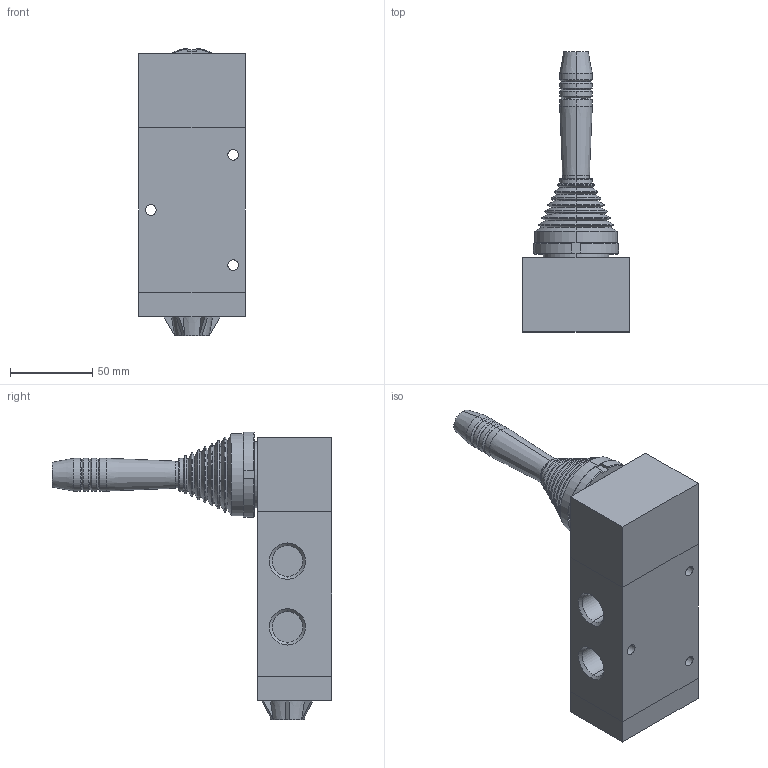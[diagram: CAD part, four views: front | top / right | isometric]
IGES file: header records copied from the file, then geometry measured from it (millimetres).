
Global section: file name: No Iges File Name specified; native system: AutoDesk Inventor R11.0; preprocessor: AutoDesk Inventor Iges Exporter R11.0; author: No Author specified; organization: No Organization specified; date: 20061219.152832; units: millimetre
Bounding box: 65 x 170 x 174.88 mm (x, y, z)
Volume: 536285.6 mm3; surface area: 64406.3 mm2
Topology: 2 solids, 2 shells, 183 faces, 420 edges, 254 vertices
Faces by surface type: cone 60, plane 56, cylinder 24, torus 16, bspline 15, revolution 12
